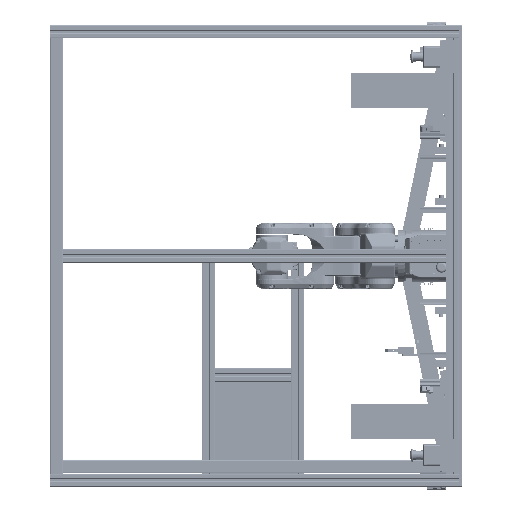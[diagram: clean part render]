
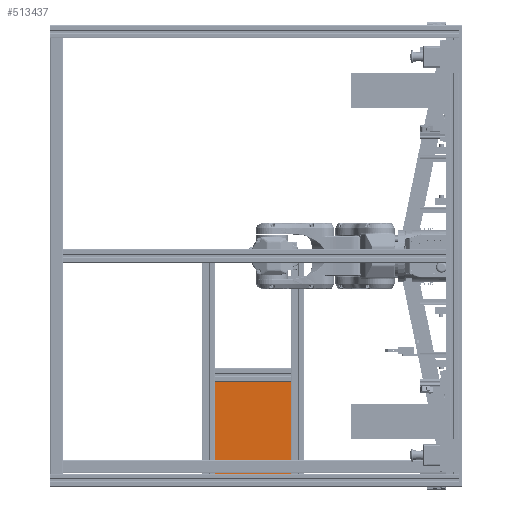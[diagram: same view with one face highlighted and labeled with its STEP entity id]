
A CAD part, left-side view. The second image highlights one B-rep face of the part: STEP entity #513437.
In plain terms, the highlighted planar face has unit normal (-1, 0, 0) as drawn and (0, 0, -1) by its records, which use the part's own axes.
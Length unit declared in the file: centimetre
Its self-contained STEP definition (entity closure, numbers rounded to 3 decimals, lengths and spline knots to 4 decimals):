
#31433 = LINE ( 'NONE', #203061, #238257 ) ;
#36480 = ORIENTED_EDGE ( 'NONE', *, *, #352351, .F. ) ;
#36839 = ORIENTED_EDGE ( 'NONE', *, *, #685428, .T. ) ;
#38576 = CARTESIAN_POINT ( 'NONE',  ( 0., 0., 0. ) ) ;
#48105 = EDGE_CURVE ( 'NONE', #509128, #83763, #240898, .T. ) ;
#51479 = CARTESIAN_POINT ( 'NONE',  ( 15.9, -14.2, 0. ) ) ;
#58955 = EDGE_LOOP ( 'NONE', ( #345056, #36839, #36480, #657200, #151643, #478264, #74042, #91245 ) ) ;
#60454 = CARTESIAN_POINT ( 'NONE',  ( 15.9, 15.2, 0. ) ) ;
#74042 = ORIENTED_EDGE ( 'NONE', *, *, #74455, .F. ) ;
#74455 = EDGE_CURVE ( 'NONE', #437964, #296461, #403751, .T. ) ;
#81520 = DIRECTION ( 'NONE',  ( -0.707, 0.707, 0. ) ) ;
#83763 = VERTEX_POINT ( 'NONE', #315312 ) ;
#90283 = VECTOR ( 'NONE', #468552, 100. ) ;
#90890 = DIRECTION ( 'NONE',  ( 0., 0., 1. ) ) ;
#91245 = ORIENTED_EDGE ( 'NONE', *, *, #251051, .T. ) ;
#150490 = PLANE ( 'NONE',  #254115 ) ;
#151643 = ORIENTED_EDGE ( 'NONE', *, *, #330792, .F. ) ;
#154798 = VERTEX_POINT ( 'NONE', #640157 ) ;
#159894 = VECTOR ( 'NONE', #338727, 100. ) ;
#199387 = DIRECTION ( 'NONE',  ( 0.707, 0.707, 0. ) ) ;
#200840 = CARTESIAN_POINT ( 'NONE',  ( -14.9, -15.2, 0. ) ) ;
#203061 = CARTESIAN_POINT ( 'NONE',  ( -15.9, 14.2, 0. ) ) ;
#218064 = CARTESIAN_POINT ( 'NONE',  ( -15.9, 15.2, 0. ) ) ;
#238257 = VECTOR ( 'NONE', #199387, 100. ) ;
#240898 = LINE ( 'NONE', #706824, #90283 ) ;
#251051 = EDGE_CURVE ( 'NONE', #437964, #83763, #517708, .T. ) ;
#254115 = AXIS2_PLACEMENT_3D ( 'NONE', #38576, #90890, #433997 ) ;
#261061 = VECTOR ( 'NONE', #505265, 100. ) ;
#264453 = VERTEX_POINT ( 'NONE', #626293 ) ;
#288103 = DIRECTION ( 'NONE',  ( 0., 1., 0. ) ) ;
#296461 = VERTEX_POINT ( 'NONE', #663335 ) ;
#305481 = LINE ( 'NONE', #473447, #720000 ) ;
#311097 = FACE_OUTER_BOUND ( 'NONE', #58955, .T. ) ;
#313694 = EDGE_CURVE ( 'NONE', #596114, #154798, #31433, .T. ) ;
#315312 = CARTESIAN_POINT ( 'NONE',  ( 14.9, -15.2, 0. ) ) ;
#319472 = VECTOR ( 'NONE', #81520, 100. ) ;
#322729 = VECTOR ( 'NONE', #677869, 100. ) ;
#330792 = EDGE_CURVE ( 'NONE', #264453, #154798, #606139, .T. ) ;
#338727 = DIRECTION ( 'NONE',  ( -0.707, -0.707, 0. ) ) ;
#342279 = LINE ( 'NONE', #454159, #322729 ) ;
#345056 = ORIENTED_EDGE ( 'NONE', *, *, #48105, .F. ) ;
#351288 = CARTESIAN_POINT ( 'NONE',  ( -15.9, -14.2, 0. ) ) ;
#352351 = EDGE_CURVE ( 'NONE', #596114, #387552, #342279, .T. ) ;
#380127 = EDGE_CURVE ( 'NONE', #264453, #296461, #305481, .T. ) ;
#387552 = VERTEX_POINT ( 'NONE', #351288 ) ;
#403751 = LINE ( 'NONE', #60454, #416784 ) ;
#416784 = VECTOR ( 'NONE', #288103, 100. ) ;
#433997 = DIRECTION ( 'NONE',  ( 1., 0., 0. ) ) ;
#437964 = VERTEX_POINT ( 'NONE', #500724 ) ;
#454159 = CARTESIAN_POINT ( 'NONE',  ( -15.9, 15.2, 0. ) ) ;
#468552 = DIRECTION ( 'NONE',  ( 1., 0., 0. ) ) ;
#473447 = CARTESIAN_POINT ( 'NONE',  ( 14.9, 15.2, 0. ) ) ;
#478264 = ORIENTED_EDGE ( 'NONE', *, *, #380127, .T. ) ;
#500724 = CARTESIAN_POINT ( 'NONE',  ( 15.9, -14.2, 0. ) ) ;
#505265 = DIRECTION ( 'NONE',  ( -1., 0., 0. ) ) ;
#509128 = VERTEX_POINT ( 'NONE', #543106 ) ;
#513437 = ADVANCED_FACE ( 'NONE', ( #311097 ), #150490, .F. ) ;
#517708 = LINE ( 'NONE', #51479, #159894 ) ;
#543106 = CARTESIAN_POINT ( 'NONE',  ( -14.9, -15.2, 0. ) ) ;
#548093 = CARTESIAN_POINT ( 'NONE',  ( -15.9, 14.2, 0. ) ) ;
#592451 = LINE ( 'NONE', #200840, #319472 ) ;
#596114 = VERTEX_POINT ( 'NONE', #548093 ) ;
#606139 = LINE ( 'NONE', #218064, #261061 ) ;
#626293 = CARTESIAN_POINT ( 'NONE',  ( 14.9, 15.2, 0. ) ) ;
#640157 = CARTESIAN_POINT ( 'NONE',  ( -14.9, 15.2, 0. ) ) ;
#657200 = ORIENTED_EDGE ( 'NONE', *, *, #313694, .T. ) ;
#663335 = CARTESIAN_POINT ( 'NONE',  ( 15.9, 14.2, 0. ) ) ;
#677869 = DIRECTION ( 'NONE',  ( 0., -1., 0. ) ) ;
#685428 = EDGE_CURVE ( 'NONE', #509128, #387552, #592451, .T. ) ;
#706824 = CARTESIAN_POINT ( 'NONE',  ( -15.9, -15.2, 0. ) ) ;
#708019 = DIRECTION ( 'NONE',  ( 0.707, -0.707, 0. ) ) ;
#720000 = VECTOR ( 'NONE', #708019, 100. ) ;
